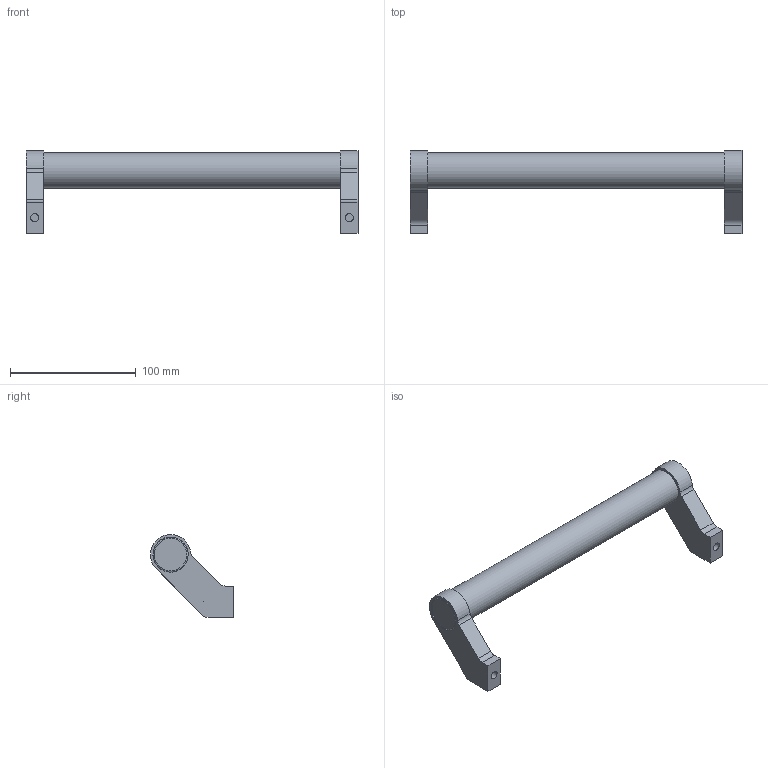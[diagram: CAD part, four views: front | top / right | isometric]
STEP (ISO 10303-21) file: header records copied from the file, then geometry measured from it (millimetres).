
FILE_DESCRIPTION( ( 'STEP AP203' ), '1' );
FILE_NAME( 'C:/Temp/Ganter_Step_05_03_2020/data/1_2/gn333/Tubular handle GN 333-28-250-B-EL.stp', '2020-03-05T10:16:28', ( 'License CC BY-ND 4.0' ), ( 'CADENAS' ), ' ', 'PARTsolutions', ' ' );
FILE_SCHEMA( ( 'CONFIG_CONTROL_DESIGN' ) );
Length unit declared in the file: millimetre
Products named in the file (1): _Tubular handle GN 333-28-250-B-EL
Bounding box: 264 x 65.95 x 65.97 mm (x, y, z)
Volume: 204615.1 mm3; surface area: 37617.9 mm2
Topology: 1 solids, 1 shells, 53 faces, 115 edges, 76 vertices
Faces by surface type: plane 32, cylinder 19, torus 2
Full cylindrical faces by diameter (mm): 6.5 x2, 11 x2, 11.4 x2, 12 x2, 28 x3
Entity records: 1424 total; most frequent: CARTESIAN_POINT 272, DIRECTION 240, ORIENTED_EDGE 196, EDGE_CURVE 98, AXIS2_PLACEMENT_3D 96, EDGE_LOOP 76, VERTEX_POINT 70, FACE_OUTER_BOUND 64
